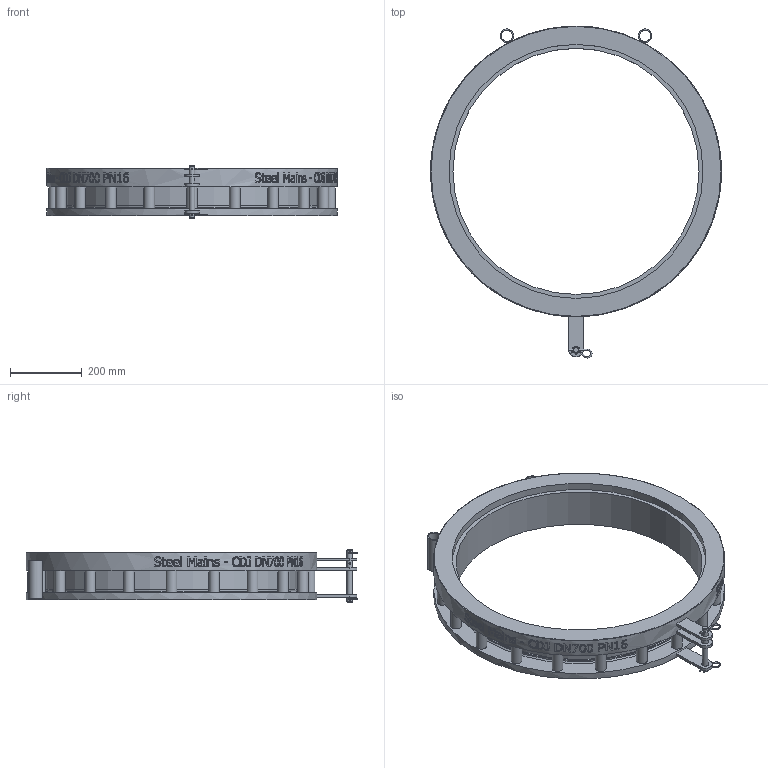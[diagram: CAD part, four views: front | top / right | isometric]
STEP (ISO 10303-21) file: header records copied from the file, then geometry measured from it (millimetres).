
FILE_DESCRIPTION(/* description */ (''),/* implementation_level */ '2;1');
FILE_NAME(/* name */ 'C:\Vault\Designs\Somerton\196\196-18 Models\Marketing Files\SteelMains - CDJ DN700 PN16 - (196-18T rev E).stp',/* time_stamp */ '2025-08-13T10:18:52+10:00',/* author */ ('esad.corhodzic'),/* organization */ (''),/* preprocessor_version */ 'ST-DEVELOPER v18.1',/* originating_system */ 'Autodesk Inventor 2021',/* authorisation */ '');
FILE_SCHEMA (('AUTOMOTIVE_DESIGN { 1 0 10303 214 3 1 1 }'));
Length unit declared in the file: millimetre
Products named in the file (1): SPS_ENG-084294
Bounding box: 812 x 926.81 x 146 mm (x, y, z)
Volume: 12186211.6 mm3; surface area: 1323217.7 mm2
Topology: 6 solids, 6 shells, 795 faces, 2151 edges, 1435 vertices
Faces by surface type: bspline 368, plane 297, cylinder 117, torus 8, cone 5
Full cylindrical faces by diameter (mm): 3.2 x10, 5 x3, 16 x1, 20 x3, 30 x20, 31.6 x2, 38.1 x2, 687 x1, 703 x1, 707 x1, 709 x1, 812 x1
Entity records: 34728 total; most frequent: CARTESIAN_POINT 16516, ORIENTED_EDGE 4308, DIRECTION 2658, EDGE_CURVE 2154, VERTEX_POINT 1438, LINE 994, VECTOR 994, EDGE_LOOP 920
